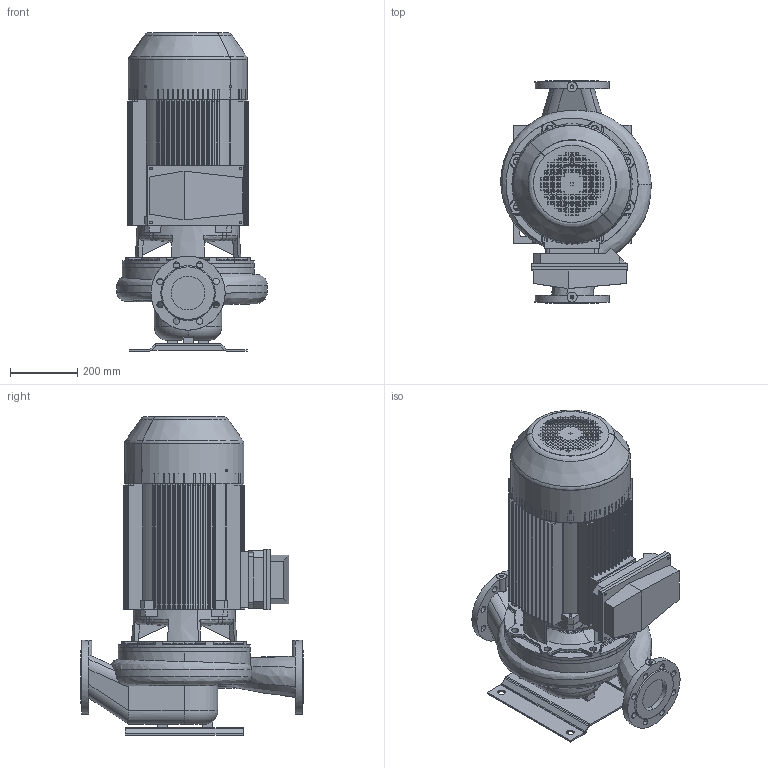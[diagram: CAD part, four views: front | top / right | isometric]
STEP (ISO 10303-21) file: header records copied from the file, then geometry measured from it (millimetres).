
FILE_DESCRIPTION(('STEP AP214'),'1');
FILE_NAME('export.stp','2018-05-29T07:58:38',(' '),(' '),'Spatial InterOp 3D',' ',' ');
FILE_SCHEMA(('AUTOMOTIVE_DESIGN { 1 0 10303 214 1 1 1 1 }'));
Length unit declared in the file: millimetre
Products named in the file (13): V_MKP187-K2-BF32; R201280; R200132; R200136; R200138; R200137; R201121; W_L100S4220KP187; V_TLL100SAL1202; V_PPL100S; P100496; P100495; P100342
Assembly tree (13 placements, depth 3):
  W_L100S4220KP187
    V_MKP187-K2-BF32
      R201280
      R200132
      R200136
      R200138
      R200137
      R201121
    V_TLL100SAL1202
    V_PPL100S
    P100496
      P100495  x2
      P100342
Bounding box: 446.61 x 660 x 946 mm (x, y, z)
Volume: 38576137.6 mm3; surface area: 4901271.2 mm2
Topology: 11 solids, 11 shells, 2245 faces, 6593 edges, 4358 vertices
Faces by surface type: plane 1260, cylinder 819, torus 65, cone 64, bspline 26, sphere 11
Entity records: 115111 total; most frequent: CARTESIAN_POINT 19197, ORIENTED_EDGE 13120, DIRECTION 12614, EDGE_CURVE 6560, STYLED_ITEM 5435, PRESENTATION_STYLE_ASSIGNMENT 5435, COLOUR_RGB 5435, VERTEX_POINT 4350
